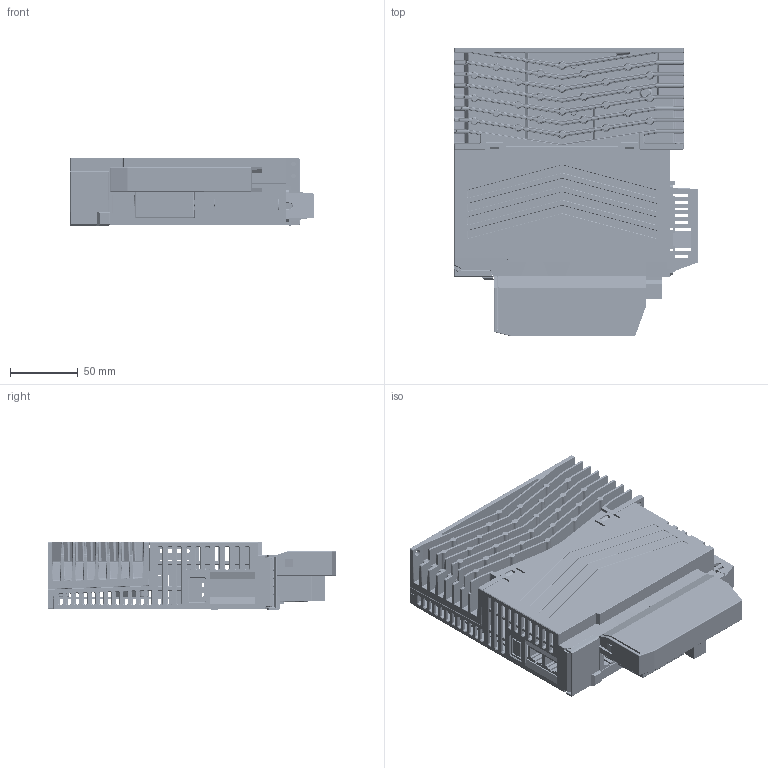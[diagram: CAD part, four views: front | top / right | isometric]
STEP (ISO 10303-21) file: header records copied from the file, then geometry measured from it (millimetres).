
FILE_DESCRIPTION((''),'2;1');
FILE_NAME('220V25A_700S_TOP_ASM_8_ASM','2021-12-17T',('Cyclone_Aero15X'),(''),'PRO/ENGINEER BY PARAMETRIC TECHNOLOGY CORPORATION, 2010280','PRO/ENGINEER BY PARAMETRIC TECHNOLOGY CORPORATION, 2010280','');
FILE_SCHEMA(('CONFIG_CONTROL_DESIGN'));
Products named in the file (60): 220V25A_700S_HEATSINK-V4_5; MANIFOLD_SOLID_BREP_90093; MANIFOLD_SOLID_BREP_90247; 220V25A35A_700S_CPUIGBTBD_2_ASM; RJ45_2POS_9; DB26_6; MANIFOLD_SOLID_BREP_102081; MANIFOLD_SOLID_BREP_102372; _3E106-2230KV_IGS_6; 3E106-2230KV_IGS_6_ASM; P5_9PIN_POWERPORT_3; NGSS-400W-HMIPART_36; NGSS-400W-DISPLAY_6; BUTN_LONG_4X4X3P8_7; NGSS-400W-DISPLAYBD_ASM_3_ASM; RJ45_1POS_7; SIDELED_7; 220V25A35A_700S_CPUIGBTBD_ASM_2_ASM; 220V25A_700S_SHELL_20; NGSS-400W-COVER_9; BD_ADPT_2_6; ADAPTOR_TEMINAL_2_6; MANIFOLD_SOLID_BREP_229698; MANIFOLD_SOLID_BREP_229786; MANIFOLD_SOLID_BREP_229874; MANIFOLD_SOLID_BREP_229962; MANIFOLD_SOLID_BREP_230050; MANIFOLD_SOLID_BREP_230138; MANIFOLD_SOLID_BREP_230226; MANIFOLD_SOLID_BREP_230314; MANIFOLD_SOLID_BREP_230402; MANIFOLD_SOLID_BREP_230490; MANIFOLD_SOLID_BREP_230578; MANIFOLD_SOLID_BREP_230666; MANIFOLD_SOLID_BREP_230754; MANIFOLD_SOLID_BREP_230842; MANIFOLD_SOLID_BREP_230930; MANIFOLD_SOLID_BREP_231018; MANIFOLD_SOLID_BREP_231106; MANIFOLD_SOLID_BREP_231194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
Assembly tree (63 placements, depth 4):
  220V25A_700S_TOP_ASM_8_ASM
    220V25A_700S_HEATSINK-V4_5
    220V25A35A_700S_CPUIGBTBD_ASM_2_ASM
      220V25A35A_700S_CPUIGBTBD_2_ASM
        MANIFOLD_SOLID_BREP_90093
        MANIFOLD_SOLID_BREP_90247
      RJ45_2POS_9
      DB26_6
      3E106-2230KV_IGS_6_ASM
        MANIFOLD_SOLID_BREP_102081
        MANIFOLD_SOLID_BREP_102372
        _3E106-2230KV_IGS_6
      P5_9PIN_POWERPORT_3
      NGSS-400W-DISPLAYBD_ASM_3_ASM
        NGSS-400W-HMIPART_36
        NGSS-400W-DISPLAY_6
        BUTN_LONG_4X4X3P8_7  x4
      RJ45_1POS_7
      SIDELED_7
    220V25A_700S_SHELL_20
    NGSS-400W-COVER_9
    BD_ADPT_2_ASM_9_ASM
      BD_ADPT_2_6
      ADAPTOR_TEMINAL_2_6
      DB26_SOCKET_90D_MALE_8_ASM
        MANIFOLD_SOLID_BREP_229698
        MANIFOLD_SOLID_BREP_229786
        MANIFOLD_SOLID_BREP_229874
        MANIFOLD_SOLID_BREP_229962
        MANIFOLD_SOLID_BREP_230050
        MANIFOLD_SOLID_BREP_230138
        MANIFOLD_SOLID_BREP_230226
        MANIFOLD_SOLID_BREP_230314
        MANIFOLD_SOLID_BREP_230402
        MANIFOLD_SOLID_BREP_230490
        MANIFOLD_SOLID_BREP_230578
        MANIFOLD_SOLID_BREP_230666
        MANIFOLD_SOLID_BREP_230754
        MANIFOLD_SOLID_BREP_230842
        MANIFOLD_SOLID_BREP_230930
        MANIFOLD_SOLID_BREP_231018
        MANIFOLD_SOLID_BREP_231106
        MANIFOLD_SOLID_BREP_231194
        MANIFOLD_SOLID_BREP_231282
        MANIFOLD_SOLID_BREP_231370
        MANIFOLD_SOLID_BREP_231458
        MANIFOLD_SOLID_BREP_231546
        MANIFOLD_SOLID_BREP_231634
        MANIFOLD_SOLID_BREP_231722
        MANIFOLD_SOLID_BREP_231810
        MANIFOLD_SOLID_BREP_231898
        MANIFOLD_SOLID_BREP_231986
      PAD_2_6
      IO_GADGET_5
      HDBPLUGINSCREW_8  x2
    PLUG_IEEE1394_3
    P5_9P_PLUGIN_2
    TMN_SHD3_9
    PMMA_6
    BAT_BOX_UP2_5
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Bounding box: 180.5 x 214 x 50.49 mm (x, y, z)
Volume: 482902.1 mm3; surface area: 372294.9 mm2
Topology: 56 solids, 76 shells, 7099 faces, 18275 edges, 11440 vertices
Faces by surface type: plane 3809, cylinder 2070, torus 439, bspline 418, cone 343, sphere 18, revolution 2
Entity records: 234625 total; most frequent: CARTESIAN_POINT 67872, ORIENTED_EDGE 35225, DIRECTION 32881, EDGE_CURVE 17762, VECTOR 11725, LINE 11725, VERTEX_POINT 11114, AXIS2_PLACEMENT_3D 10577
